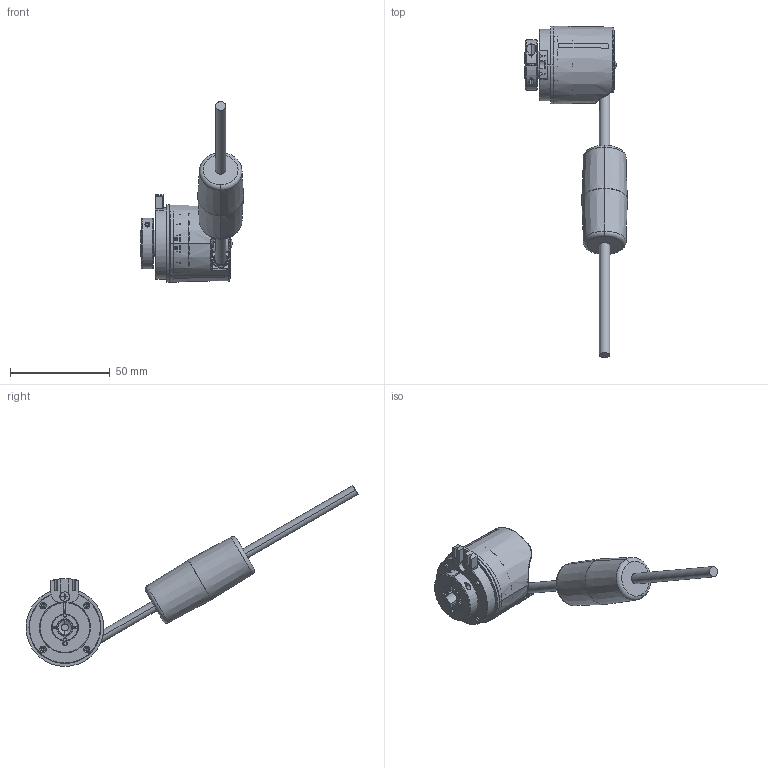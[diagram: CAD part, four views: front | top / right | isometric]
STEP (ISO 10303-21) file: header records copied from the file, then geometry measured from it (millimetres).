
FILE_DESCRIPTION (( 'STEP AP203' ), '1' );
FILE_NAME ('8.F3688.17X2.2112.STEP', '2012-08-20T13:39:09', ( 'Hodot' ), ( '' ), 'SwSTEP 2.0', 'SolidWorks 2012', '' );
FILE_SCHEMA (( 'CONFIG_CONTROL_DESIGN' ));
Length unit declared in the file: millimetre
Products named in the file (1): 8.F3688.17X2.2112
Bounding box: 51.7 x 166.37 x 90.61 mm (x, y, z)
Volume: 29058.1 mm3; surface area: 35003.3 mm2
Topology: 28 solids, 29 shells, 1355 faces, 3321 edges, 2044 vertices
Faces by surface type: plane 378, cylinder 304, bspline 285, cone 190, torus 160, sphere 38
Entity records: 47286 total; most frequent: CARTESIAN_POINT 17406, ORIENTED_EDGE 6484, DIRECTION 5857, EDGE_CURVE 3242, AXIS2_PLACEMENT_3D 2312, VERTEX_POINT 2008, EDGE_LOOP 1448, FACE_OUTER_BOUND 1355
